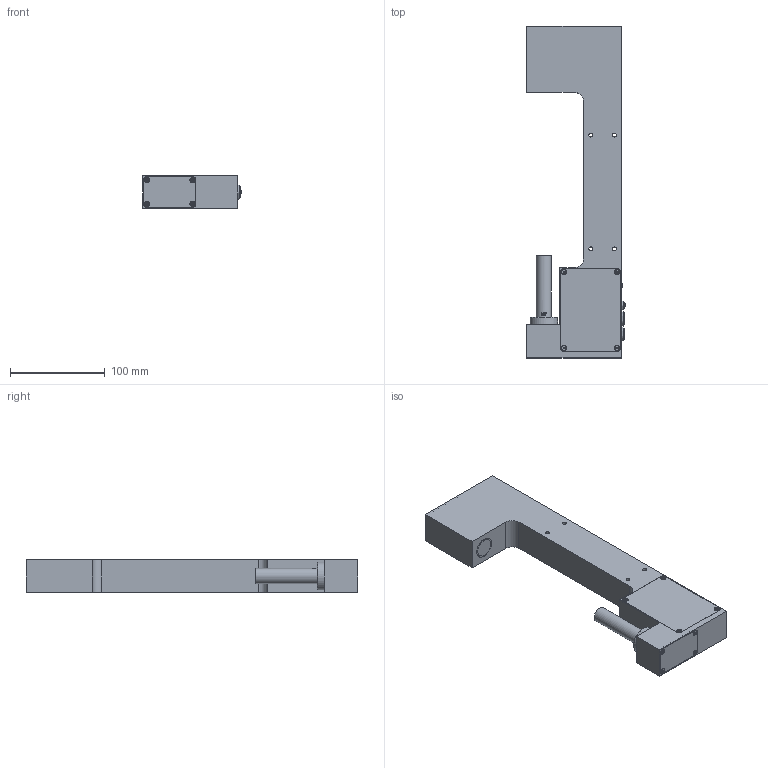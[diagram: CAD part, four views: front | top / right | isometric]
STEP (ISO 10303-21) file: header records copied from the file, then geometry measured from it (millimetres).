
FILE_DESCRIPTION(/* description */ (''),/* implementation_level */ '2;1');
FILE_NAME(/* name */ 'H:\ZVW\Inventor\E-Mail-Zeichnungen\STEP\L-LAS-TB-F-150_60-MO-2x_0895_00.stp',/* time_stamp */ '2014-01-16T11:43:13+01:00',/* author */ ('TK-01'),/* organization */ (''),/* preprocessor_version */ 'ST-DEVELOPER v15.2',/* originating_system */ 'Autodesk Inventor 2014',/* authorisation */ '');
FILE_SCHEMA (('AUTOMOTIVE_DESIGN { 1 0 10303 214 3 1 1 }'));
Length unit declared in the file: millimetre
Products named in the file (1): Bauteil5
Bounding box: 104 x 350 x 34 mm (x, y, z)
Volume: 754825.3 mm3; surface area: 90870.5 mm2
Topology: 1 solids, 7 shells, 753 faces, 1997 edges, 1336 vertices
Faces by surface type: plane 342, cylinder 311, cone 74, bspline 20, sphere 5, torus 1
Full cylindrical faces by diameter (mm): 0.5 x19, 2.4 x1, 2.5 x12, 2.6 x1, 2.9 x12, 3 x4, 3.1 x4, 4 x1, 4.134 x7, 4.5 x1, 5 x14, 6 x1, 7 x1, 7.05 x1, 7.1 x1, 7.3 x1, 9 x2, 12 x1, 12.7 x1, 16 x1, 19 x1, 19.1 x1, 22 x1, 22.05 x1, 24.2 x1, 24.536 x1, 29 x1
Entity records: 28320 total; most frequent: CARTESIAN_POINT 10386, ORIENTED_EDGE 3534, DIRECTION 3356, EDGE_CURVE 1767, AXIS2_PLACEMENT_3D 1288, VERTEX_POINT 1268, EDGE_LOOP 1001, LINE 780
